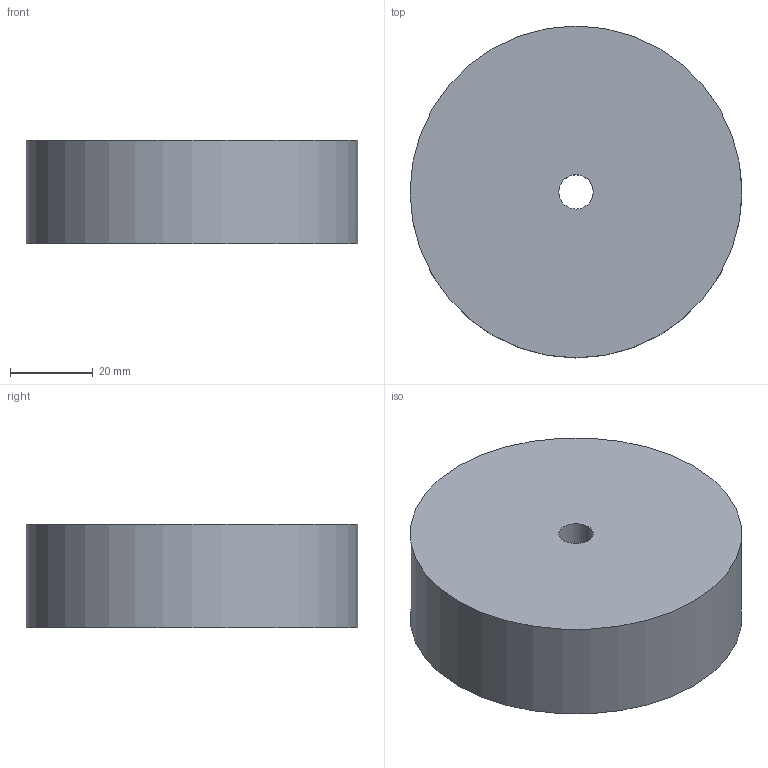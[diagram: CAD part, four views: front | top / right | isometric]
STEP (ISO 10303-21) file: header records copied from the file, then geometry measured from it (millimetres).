
FILE_DESCRIPTION(('Open CASCADE Model'),'2;1');
FILE_NAME('Open CASCADE Shape Model','2026-10-21T17:23:52',('Author'),( 'Open CASCADE'),'Open CASCADE STEP processor 7.9','Open CASCADE 7.9' ,'Unknown');
FILE_SCHEMA(('AUTOMOTIVE_DESIGN { 1 0 10303 214 1 1 1 1 }'));
Length unit declared in the file: millimetre
Products named in the file (1): Open CASCADE STEP translator 7.9 50
Bounding box: 80 x 80 x 25 mm (x, y, z)
Volume: 124003.4 mm3; surface area: 17235.9 mm2
Topology: 1 solids, 1 shells, 5 faces, 13 edges, 8 vertices
Faces by surface type: cylinder 3, plane 2
Full cylindrical faces by diameter (mm): 3.3 x1, 8.3 x1, 80 x1
Entity records: 780 total; most frequent: CARTESIAN_POINT 521, DIRECTION 41, ORIENTED_EDGE 26, PCURVE 26, DEFINITIONAL_REPRESENTATION 26, LINE 19, VECTOR 19, EDGE_CURVE 13
